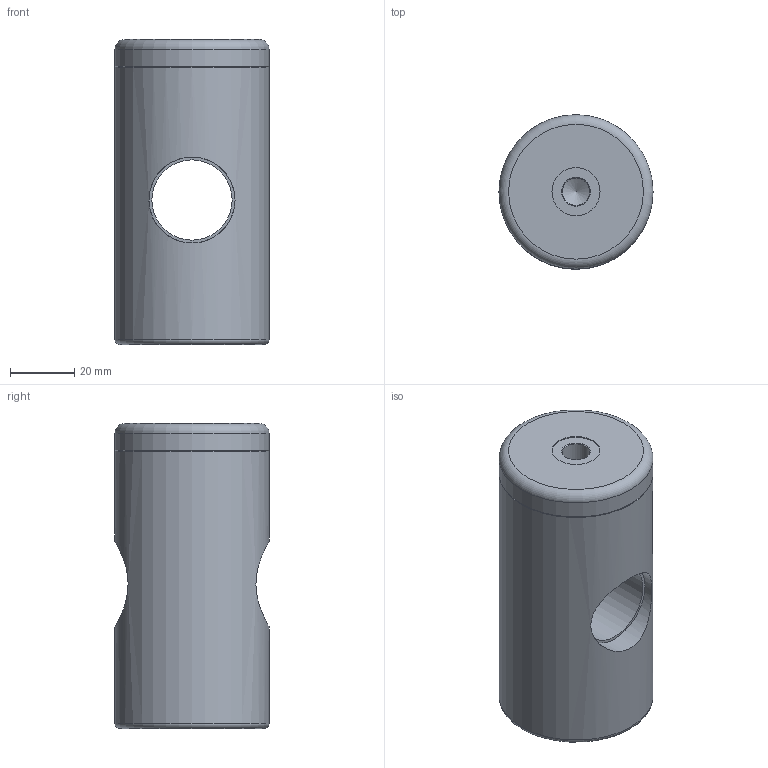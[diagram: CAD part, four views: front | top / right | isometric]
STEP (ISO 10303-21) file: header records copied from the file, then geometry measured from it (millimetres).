
FILE_DESCRIPTION(('STEP AP242'),'1');
FILE_NAME('V.5025 Feststellpatrone.stp','2026-04-23T09:33:31',(' '),(' '),'Spatial InterOp 3D',' ',' ');
FILE_SCHEMA(('AP242_MANAGED_MODEL_BASED_3D_ENGINEERING_MIM_LF {1 0 10303 442 1 1 4}'));
Length unit declared in the file: millimetre
Products named in the file (1): V.5025 Feststellpatrone
Bounding box: 48 x 48 x 95 mm (x, y, z)
Volume: 147320 mm3; surface area: 20465.5 mm2
Topology: 1 solids, 1 shells, 19 faces, 36 edges, 22 vertices
Faces by surface type: cylinder 8, plane 5, cone 4, torus 2
Full cylindrical faces by diameter (mm): 8.566 x2, 15 x1, 25 x1, 26.8 x2, 48 x2
Entity records: 819 total; most frequent: CARTESIAN_POINT 249, DIRECTION 74, EDGE_LOOP 38, ORIENTED_EDGE 38, AXIS2_PLACEMENT_3D 37, FACE_OUTER_BOUND 29, STYLED_ITEM 20, PRESENTATION_STYLE_ASSIGNMENT 20
